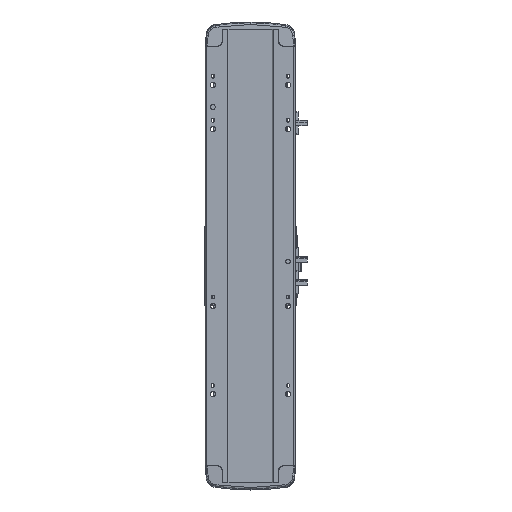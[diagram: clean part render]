
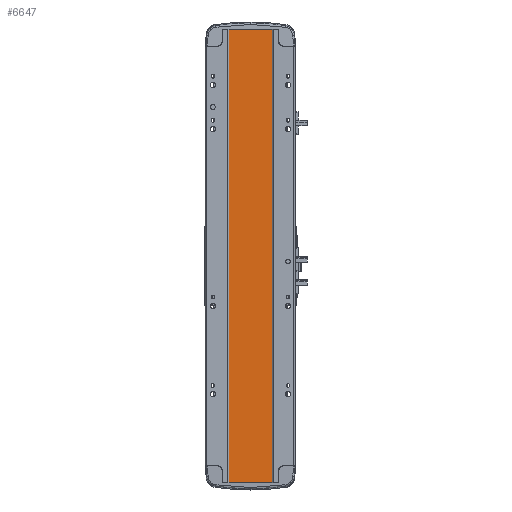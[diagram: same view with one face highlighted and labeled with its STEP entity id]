
A CAD part, front view. The second image highlights one B-rep face of the part: STEP entity #6647.
In plain terms, the highlighted planar face has unit normal (0, -1, 0).
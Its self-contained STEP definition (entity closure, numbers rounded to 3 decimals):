
#550 = DIRECTION ( 'NONE',  ( 0., 0., 1. ) ) ;
#702 = CARTESIAN_POINT ( 'NONE',  ( 0., 2., 513. ) ) ;
#2855 = EDGE_CURVE ( 'NONE', #19651, #35813, #12175, .T. ) ;
#6460 = CARTESIAN_POINT ( 'NONE',  ( 24.5, 2., 0. ) ) ;
#6647 = ADVANCED_FACE ( 'NONE', ( #32889 ), #8686, .F. ) ;
#6686 = DIRECTION ( 'NONE',  ( 0., 0., -1. ) ) ;
#8686 = PLANE ( 'NONE',  #12204 ) ;
#8771 = EDGE_CURVE ( 'NONE', #31113, #37700, #17978, .T. ) ;
#10095 = CARTESIAN_POINT ( 'NONE',  ( -24.5, 2., 513. ) ) ;
#11406 = CARTESIAN_POINT ( 'NONE',  ( 24.5, 2., 0. ) ) ;
#12175 = LINE ( 'NONE', #10095, #18023 ) ;
#12204 = AXIS2_PLACEMENT_3D ( 'NONE', #702, #19808, #550 ) ;
#13660 = CARTESIAN_POINT ( 'NONE',  ( -24.5, 2., 0. ) ) ;
#16846 = VECTOR ( 'NONE', #17584, 1000. ) ;
#17336 = EDGE_LOOP ( 'NONE', ( #30096, #19157, #38436, #24873 ) ) ;
#17584 = DIRECTION ( 'NONE',  ( 1., 0., 0. ) ) ;
#17595 = EDGE_CURVE ( 'NONE', #35813, #37700, #45939, .T. ) ;
#17600 = DIRECTION ( 'NONE',  ( 0., 0., -1. ) ) ;
#17978 = LINE ( 'NONE', #29176, #31310 ) ;
#18023 = VECTOR ( 'NONE', #17600, 1000. ) ;
#18178 = CARTESIAN_POINT ( 'NONE',  ( 24.5, 2., 513. ) ) ;
#19157 = ORIENTED_EDGE ( 'NONE', *, *, #17595, .T. ) ;
#19651 = VERTEX_POINT ( 'NONE', #32497 ) ;
#19808 = DIRECTION ( 'NONE',  ( 0., 1., 0. ) ) ;
#23915 = VECTOR ( 'NONE', #24570, 1000. ) ;
#23940 = EDGE_CURVE ( 'NONE', #19651, #31113, #41342, .T. ) ;
#24570 = DIRECTION ( 'NONE',  ( 1., 0., 0. ) ) ;
#24873 = ORIENTED_EDGE ( 'NONE', *, *, #23940, .F. ) ;
#29176 = CARTESIAN_POINT ( 'NONE',  ( 24.5, 2., 513. ) ) ;
#30096 = ORIENTED_EDGE ( 'NONE', *, *, #2855, .T. ) ;
#31113 = VERTEX_POINT ( 'NONE', #18178 ) ;
#31310 = VECTOR ( 'NONE', #6686, 1000. ) ;
#32497 = CARTESIAN_POINT ( 'NONE',  ( -24.5, 2., 513. ) ) ;
#32889 = FACE_OUTER_BOUND ( 'NONE', #17336, .T. ) ;
#35813 = VERTEX_POINT ( 'NONE', #13660 ) ;
#37700 = VERTEX_POINT ( 'NONE', #11406 ) ;
#38436 = ORIENTED_EDGE ( 'NONE', *, *, #8771, .F. ) ;
#41342 = LINE ( 'NONE', #43052, #23915 ) ;
#43052 = CARTESIAN_POINT ( 'NONE',  ( -24.5, 2., 513. ) ) ;
#45939 = LINE ( 'NONE', #6460, #16846 ) ;
